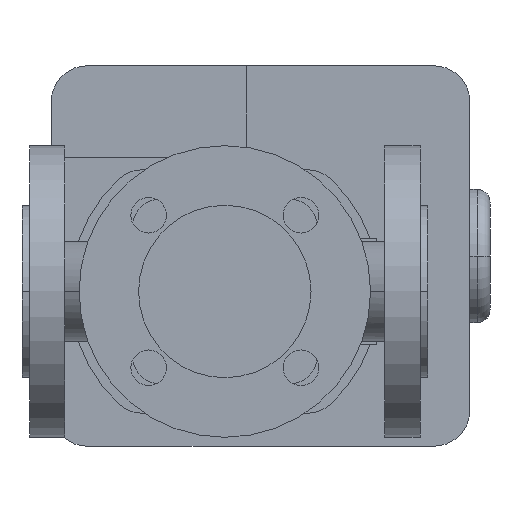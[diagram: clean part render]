
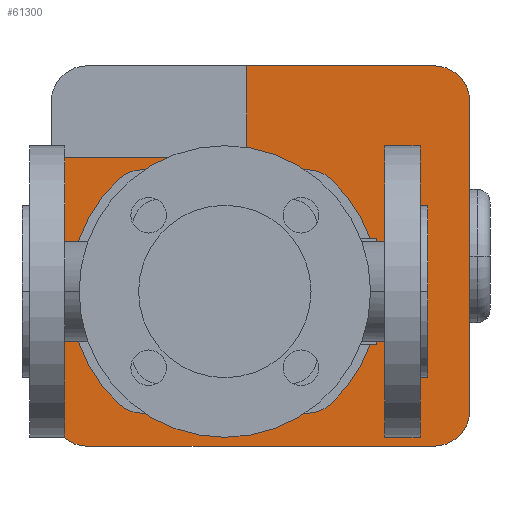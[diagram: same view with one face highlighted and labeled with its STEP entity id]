
A CAD part, front view. The second image highlights one B-rep face of the part: STEP entity #61300.
In plain terms, the highlighted planar face has unit normal (0, -1, 0).
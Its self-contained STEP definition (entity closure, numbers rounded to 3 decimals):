
#49750=CARTESIAN_POINT('',(139.96,502.,11.216));
#49760=VERTEX_POINT('',#49750);
#49790=CARTESIAN_POINT('',(130.,502.,0.));
#49800=DIRECTION('',(0.,1.,0.));
#49810=DIRECTION('',(0.,0.,1.));
#49820=AXIS2_PLACEMENT_3D('',#49790,#49800,#49810);
#49830=CIRCLE('',#49820,15.);
#49840=CARTESIAN_POINT('',(139.96,502.,-11.216));
#49850=VERTEX_POINT('',#49840);
#49860=EDGE_CURVE('',#49760,#49850,#49830,.T.);
#52580=CARTESIAN_POINT('',(122.116,502.,44.128));
#52590=VERTEX_POINT('',#52580);
#52620=CARTESIAN_POINT('',(80.,502.,0.));
#52630=DIRECTION('',(0.,1.,0.));
#52640=DIRECTION('',(0.69,0.,0.723));
#52650=AXIS2_PLACEMENT_3D('',#52620,#52630,#52640);
#52660=CIRCLE('',#52650,61.);
#52670=EDGE_CURVE('',#52590,#49760,#52660,.T.);
#53060=CARTESIAN_POINT('',(20.04,502.,-11.216));
#53070=VERTEX_POINT('',#53060);
#53100=CARTESIAN_POINT('',(30.,502.,0.));
#53110=DIRECTION('',(0.,1.,0.));
#53120=DIRECTION('',(0.,0.,-1.));
#53130=AXIS2_PLACEMENT_3D('',#53100,#53110,#53120);
#53140=CIRCLE('',#53130,15.);
#53150=CARTESIAN_POINT('',(20.04,502.,11.216));
#53160=VERTEX_POINT('',#53150);
#53170=EDGE_CURVE('',#53070,#53160,#53140,.T.);
#54160=CARTESIAN_POINT('',(37.884,502.,-44.128));
#54170=VERTEX_POINT('',#54160);
#54200=CARTESIAN_POINT('',(80.,502.,0.));
#54210=DIRECTION('',(0.,1.,0.));
#54220=DIRECTION('',(-0.69,0.,-0.723));
#54230=AXIS2_PLACEMENT_3D('',#54200,#54210,#54220);
#54240=CIRCLE('',#54230,61.);
#54250=EDGE_CURVE('',#54170,#53070,#54240,.T.);
#59760=CARTESIAN_POINT('',(80.,502.,0.));
#59770=DIRECTION('',(0.,1.,0.));
#59780=DIRECTION('',(0.,0.,1.));
#59790=AXIS2_PLACEMENT_3D('',#59760,#59770,#59780);
#59800=PLANE('',#59790);
#59810=ORIENTED_EDGE('',*,*,#52670,.T.);
#59820=CARTESIAN_POINT('',(112.45,502.,34.));
#59830=DIRECTION('',(0.,1.,0.));
#59840=DIRECTION('',(0.,0.,1.));
#59850=AXIS2_PLACEMENT_3D('',#59820,#59830,#59840);
#59860=CIRCLE('',#59850,14.);
#59870=CARTESIAN_POINT('',(112.45,502.,48.));
#59880=VERTEX_POINT('',#59870);
#59890=EDGE_CURVE('',#59880,#52590,#59860,.T.);
#59900=ORIENTED_EDGE('',*,*,#59890,.T.);
#59910=CARTESIAN_POINT('',(63.775,502.,48.));
#59920=DIRECTION('',(1.,0.,0.));
#59930=VECTOR('',#59920,1.);
#59940=LINE('',#59910,#59930);
#59950=CARTESIAN_POINT('',(47.55,502.,48.));
#59960=VERTEX_POINT('',#59950);
#59970=EDGE_CURVE('',#59960,#59880,#59940,.T.);
#59980=ORIENTED_EDGE('',*,*,#59970,.T.);
#59990=CARTESIAN_POINT('',(47.55,502.,34.));
#60000=DIRECTION('',(0.,1.,0.));
#60010=DIRECTION('',(-0.69,0.,0.723));
#60020=AXIS2_PLACEMENT_3D('',#59990,#60000,#60010);
#60030=CIRCLE('',#60020,14.);
#60040=CARTESIAN_POINT('',(37.884,502.,44.128));
#60050=VERTEX_POINT('',#60040);
#60060=EDGE_CURVE('',#60050,#59960,#60030,.T.);
#60070=ORIENTED_EDGE('',*,*,#60060,.T.);
#60080=CARTESIAN_POINT('',(80.,502.,0.));
#60090=DIRECTION('',(0.,1.,0.));
#60100=DIRECTION('',(-0.69,0.,-0.723));
#60110=AXIS2_PLACEMENT_3D('',#60080,#60090,#60100);
#60120=CIRCLE('',#60110,61.);
#60130=EDGE_CURVE('',#53160,#60050,#60120,.T.);
#60140=ORIENTED_EDGE('',*,*,#60130,.T.);
#60150=ORIENTED_EDGE('',*,*,#53170,.T.);
#60160=ORIENTED_EDGE('',*,*,#54250,.T.);
#60170=CARTESIAN_POINT('',(47.55,502.,-34.));
#60180=DIRECTION('',(0.,1.,0.));
#60190=DIRECTION('',(0.,0.,-1.));
#60200=AXIS2_PLACEMENT_3D('',#60170,#60180,#60190);
#60210=CIRCLE('',#60200,14.);
#60220=CARTESIAN_POINT('',(47.55,502.,-48.));
#60230=VERTEX_POINT('',#60220);
#60240=EDGE_CURVE('',#60230,#54170,#60210,.T.);
#60250=ORIENTED_EDGE('',*,*,#60240,.T.);
#60260=CARTESIAN_POINT('',(96.225,502.,-48.));
#60270=DIRECTION('',(-1.,0.,0.));
#60280=VECTOR('',#60270,1.);
#60290=LINE('',#60260,#60280);
#60300=CARTESIAN_POINT('',(112.45,502.,-48.));
#60310=VERTEX_POINT('',#60300);
#60320=EDGE_CURVE('',#60310,#60230,#60290,.T.);
#60330=ORIENTED_EDGE('',*,*,#60320,.T.);
#60340=CARTESIAN_POINT('',(112.45,502.,-34.));
#60350=DIRECTION('',(0.,1.,0.));
#60360=DIRECTION('',(0.69,0.,-0.723));
#60370=AXIS2_PLACEMENT_3D('',#60340,#60350,#60360);
#60380=CIRCLE('',#60370,14.);
#60390=CARTESIAN_POINT('',(122.116,502.,-44.128));
#60400=VERTEX_POINT('',#60390);
#60410=EDGE_CURVE('',#60400,#60310,#60380,.T.);
#60420=ORIENTED_EDGE('',*,*,#60410,.T.);
#60430=CARTESIAN_POINT('',(80.,502.,0.));
#60440=DIRECTION('',(0.,1.,0.));
#60450=DIRECTION('',(0.69,0.,0.723));
#60460=AXIS2_PLACEMENT_3D('',#60430,#60440,#60450);
#60470=CIRCLE('',#60460,61.);
#60480=EDGE_CURVE('',#49850,#60400,#60470,.T.);
#60490=ORIENTED_EDGE('',*,*,#60480,.T.);
#60500=ORIENTED_EDGE('',*,*,#49860,.T.);
#60510=EDGE_LOOP('',(#60500,#60490,#60420,#60330,#60250,#60160,#60150,
#60140,#60070,#59980,#59900,#59810));
#60520=FACE_BOUND('',#60510,.T.);
#60530=CARTESIAN_POINT('',(88.6,502.,26.5));
#60540=DIRECTION('',(0.,0.,-1.));
#60550=VECTOR('',#60540,1.);
#60560=LINE('',#60530,#60550);
#60570=CARTESIAN_POINT('',(88.6,502.,89.));
#60580=VERTEX_POINT('',#60570);
#60590=CARTESIAN_POINT('',(88.6,502.,53.));
#60600=VERTEX_POINT('',#60590);
#60610=EDGE_CURVE('',#60580,#60600,#60560,.T.);
#60620=ORIENTED_EDGE('',*,*,#60610,.T.);
#60630=CARTESIAN_POINT('',(25.6,502.,89.));
#60640=DIRECTION('',(1.,0.,0.));
#60650=VECTOR('',#60640,1.);
#60660=LINE('',#60630,#60650);
#60670=CARTESIAN_POINT('',(162.6,502.,89.));
#60680=VERTEX_POINT('',#60670);
#60690=EDGE_CURVE('',#60580,#60680,#60660,.T.);
#60700=ORIENTED_EDGE('',*,*,#60690,.F.);
#60710=CARTESIAN_POINT('',(162.6,502.,75.));
#60720=DIRECTION('',(0.,1.,0.));
#60730=DIRECTION('',(0.,0.,1.));
#60740=AXIS2_PLACEMENT_3D('',#60710,#60720,#60730);
#60750=CIRCLE('',#60740,14.);
#60760=CARTESIAN_POINT('',(176.6,502.,75.));
#60770=VERTEX_POINT('',#60760);
#60780=EDGE_CURVE('',#60680,#60770,#60750,.T.);
#60790=ORIENTED_EDGE('',*,*,#60780,.F.);
#60800=CARTESIAN_POINT('',(176.6,502.,75.));
#60810=DIRECTION('',(0.,0.,-1.));
#60820=VECTOR('',#60810,1.);
#60830=LINE('',#60800,#60820);
#60840=CARTESIAN_POINT('',(176.6,502.,-47.));
#60850=VERTEX_POINT('',#60840);
#60860=EDGE_CURVE('',#60770,#60850,#60830,.T.);
#60870=ORIENTED_EDGE('',*,*,#60860,.F.);
#60880=CARTESIAN_POINT('',(162.6,502.,-47.));
#60890=DIRECTION('',(0.,1.,0.));
#60900=DIRECTION('',(1.,0.,0.));
#60910=AXIS2_PLACEMENT_3D('',#60880,#60890,#60900);
#60920=CIRCLE('',#60910,14.);
#60930=CARTESIAN_POINT('',(162.6,502.,-61.));
#60940=VERTEX_POINT('',#60930);
#60950=EDGE_CURVE('',#60850,#60940,#60920,.T.);
#60960=ORIENTED_EDGE('',*,*,#60950,.F.);
#60970=CARTESIAN_POINT('',(162.6,502.,-61.));
#60980=DIRECTION('',(-1.,0.,0.));
#60990=VECTOR('',#60980,1.);
#61000=LINE('',#60970,#60990);
#61010=CARTESIAN_POINT('',(25.6,502.,-61.));
#61020=VERTEX_POINT('',#61010);
#61030=EDGE_CURVE('',#60940,#61020,#61000,.T.);
#61040=ORIENTED_EDGE('',*,*,#61030,.F.);
#61050=CARTESIAN_POINT('',(25.6,502.,-47.));
#61060=DIRECTION('',(0.,1.,0.));
#61070=DIRECTION('',(0.,0.,-1.));
#61080=AXIS2_PLACEMENT_3D('',#61050,#61060,#61070);
#61090=CIRCLE('',#61080,14.);
#61100=CARTESIAN_POINT('',(11.6,502.,-47.));
#61110=VERTEX_POINT('',#61100);
#61120=EDGE_CURVE('',#61020,#61110,#61090,.T.);
#61130=ORIENTED_EDGE('',*,*,#61120,.F.);
#61140=CARTESIAN_POINT('',(11.6,502.,-47.));
#61150=DIRECTION('',(0.,0.,1.));
#61160=VECTOR('',#61150,1.);
#61170=LINE('',#61140,#61160);
#61180=CARTESIAN_POINT('',(11.6,502.,53.));
#61190=VERTEX_POINT('',#61180);
#61200=EDGE_CURVE('',#61110,#61190,#61170,.T.);
#61210=ORIENTED_EDGE('',*,*,#61200,.F.);
#61220=CARTESIAN_POINT('',(45.3,502.,53.));
#61230=DIRECTION('',(-1.,0.,0.));
#61240=VECTOR('',#61230,1.);
#61250=LINE('',#61220,#61240);
#61260=EDGE_CURVE('',#60600,#61190,#61250,.T.);
#61270=ORIENTED_EDGE('',*,*,#61260,.T.);
#61280=EDGE_LOOP('',(#61270,#61210,#61130,#61040,#60960,#60870,#60790,
#60700,#60620));
#61290=FACE_OUTER_BOUND('',#61280,.T.);
#61300=ADVANCED_FACE('',(#60520,#61290),#59800,.F.);
